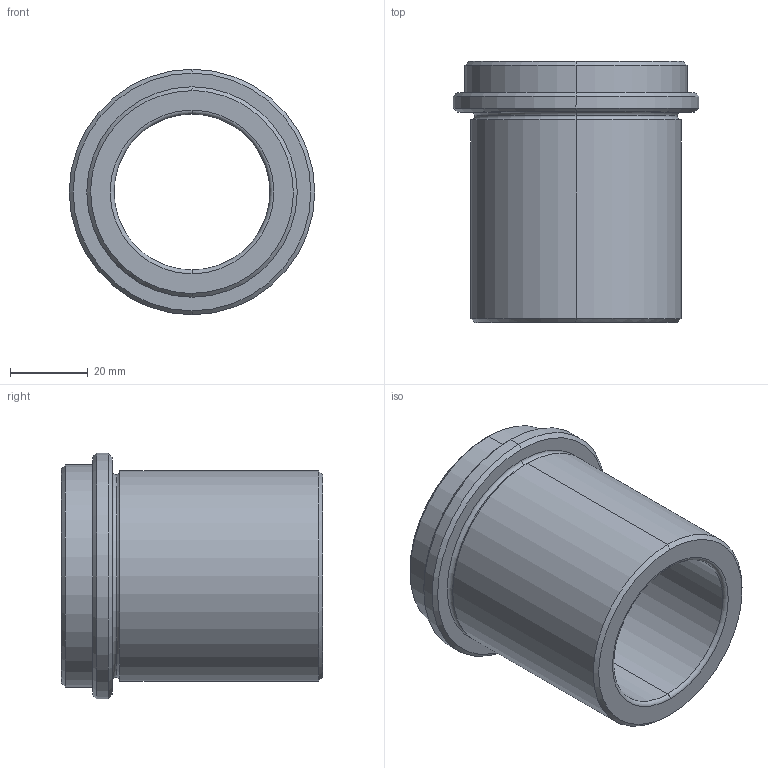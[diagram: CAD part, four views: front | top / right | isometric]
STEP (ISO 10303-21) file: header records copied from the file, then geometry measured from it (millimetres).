
FILE_DESCRIPTION(('CATIA V5 STEP Exchange'),'2;1');
FILE_NAME('C:\Users\Utente\Desktop\IO LAVORO\3D X SITO CF\X SITO\CF 439\CF 439 40x67.stp','2020-12-27T20:58:24+00:00',('none'),('none'),'CATIA Version 5 Release 20 GA (IN-10)','CATIA V5 STEP AP203','none');
FILE_SCHEMA(('CONFIG_CONTROL_DESIGN'));
Length unit declared in the file: millimetre
Products named in the file (1): CF 439 40x67
Bounding box: 63 x 67 x 63 mm (x, y, z)
Volume: 74792.6 mm3; surface area: 23356.5 mm2
Topology: 1 solids, 1 shells, 28 faces, 86 edges, 62 vertices
Faces by surface type: torus 8, cylinder 8, cone 8, plane 4
Entity records: 1056 total; most frequent: CARTESIAN_POINT 233, ORIENTED_EDGE 172, DIRECTION 138, AXIS2_PLACEMENT_3D 95, EDGE_CURVE 86, CIRCLE 66, VERTEX_POINT 62, EDGE_LOOP 32
